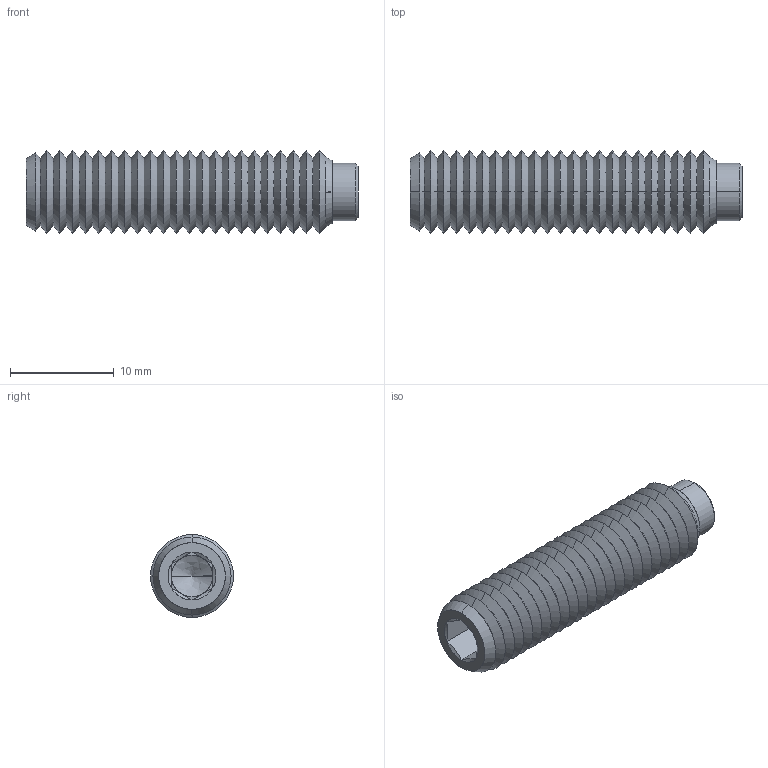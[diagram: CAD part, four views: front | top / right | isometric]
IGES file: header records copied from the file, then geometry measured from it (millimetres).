
Start section: SolidWorks IGES file using analytic representation for surfaces
Global section: file name: C:\Users\IanO\Desktop\P0120_v2_230406\P0120_v2_20230506_IGES\P0120.080-032.igs; native system: SolidWorks 2019; preprocessor: SolidWorks 2019; author: IanO; date: 230406.142447; units: millimetre
Bounding box: 32 x 8 x 8 mm (x, y, z)
Surface area: 1341.3 mm2 (no closed solid volume)
Topology: 0 solids, 0 shells, 125 faces, 758 edges, 756 vertices
Faces by surface type: revolution 108, bspline 17
